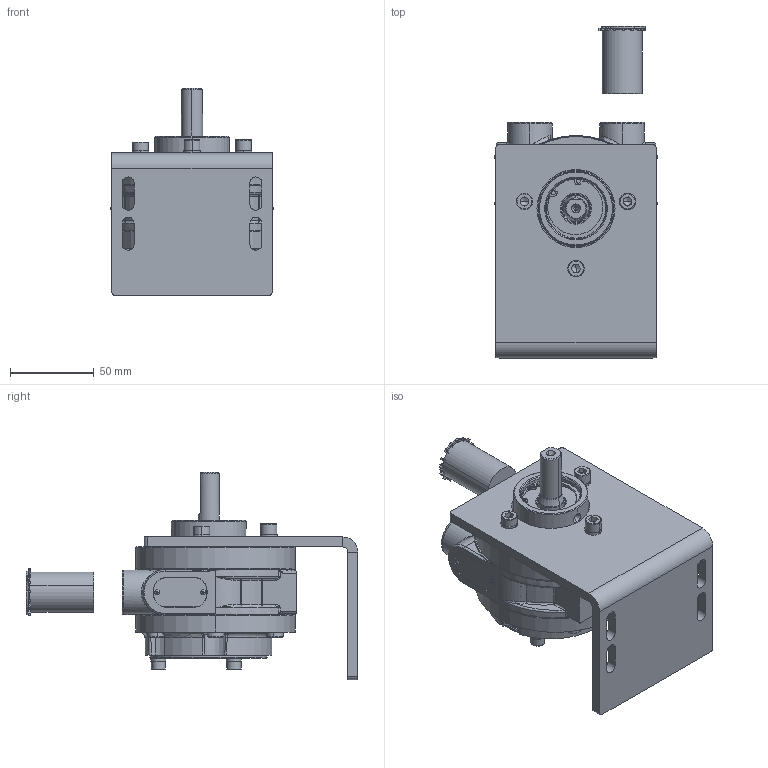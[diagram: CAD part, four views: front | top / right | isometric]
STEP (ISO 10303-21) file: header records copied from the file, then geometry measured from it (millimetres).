
FILE_DESCRIPTION (( 'STEP AP214' ), '1' );
FILE_NAME ('2VMS (Foot)_Solid 29-07-25.STEP', '2025-07-29T10:27:07', ( '' ), ( '' ), 'SwSTEP 2.0', 'SolidWorks 2017', '' );
FILE_SCHEMA (( 'AUTOMOTIVE_DESIGN' ));
Length unit declared in the file: millimetre
Products named in the file (2): 2VMS (Foot)_Solid 29-07-25
Bounding box: 96.6 x 197.7 x 123.42 mm (x, y, z)
Volume: 450444 mm3; surface area: 206344.4 mm2
Topology: 74 solids, 75 shells, 1951 faces, 4598 edges, 2777 vertices
Faces by surface type: plane 725, cylinder 568, cone 323, torus 245, bspline 78, sphere 12
Entity records: 113181 total; most frequent: CARTESIAN_POINT 44249, DIRECTION 10066, ORIENTED_EDGE 9258, EDGE_CURVE 4629, AXIS2_PLACEMENT_3D 3996, VERTEX_POINT 2859, EDGE_LOOP 2258, UNCERTAINTY_MEASURE_WITH_UNIT 2081
